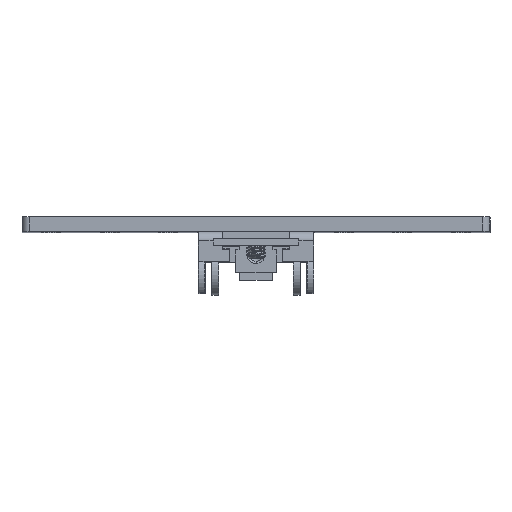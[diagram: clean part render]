
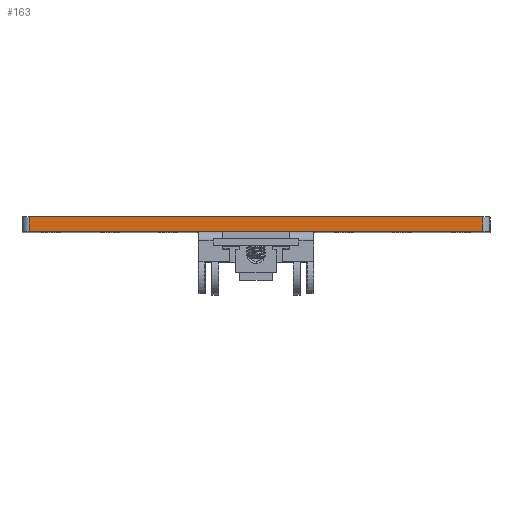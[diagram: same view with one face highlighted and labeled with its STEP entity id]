
A CAD part, top view. The second image highlights one B-rep face of the part: STEP entity #163.
In plain terms, the highlighted planar face has unit normal (0, 0, 1).
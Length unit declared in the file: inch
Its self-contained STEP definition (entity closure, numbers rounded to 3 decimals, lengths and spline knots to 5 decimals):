
#163 = ADVANCED_FACE ( 'NONE', ( #19945 ), #10644, .F. ) ;
#520 = CARTESIAN_POINT ( 'NONE',  ( 3.9375, 0.125, 0. ) ) ;
#4330 = CARTESIAN_POINT ( 'NONE',  ( 0., 0., 0. ) ) ;
#9998 = EDGE_CURVE ( 'NONE', #48848, #66652, #52858, .T. ) ;
#10634 = VECTOR ( 'NONE', #17480, 39.37008 ) ;
#10644 = PLANE ( 'NONE',  #17659 ) ;
#17480 = DIRECTION ( 'NONE',  ( 1., 0., 0. ) ) ;
#17520 = DIRECTION ( 'NONE',  ( 0., -1., 0. ) ) ;
#17659 = AXIS2_PLACEMENT_3D ( 'NONE', #64734, #32638, #54104 ) ;
#18118 = VECTOR ( 'NONE', #31086, 39.37008 ) ;
#19517 = EDGE_CURVE ( 'NONE', #66164, #24489, #54439, .T. ) ;
#19680 = ORIENTED_EDGE ( 'NONE', *, *, #52740, .T. ) ;
#19945 = FACE_OUTER_BOUND ( 'NONE', #51498, .T. ) ;
#20977 = CARTESIAN_POINT ( 'NONE',  ( 3.9375, 0., 0. ) ) ;
#24477 = LINE ( 'NONE', #60325, #34616 ) ;
#24489 = VERTEX_POINT ( 'NONE', #20977 ) ;
#28404 = CARTESIAN_POINT ( 'NONE',  ( 0.0625, 0., 0. ) ) ;
#29492 = EDGE_CURVE ( 'NONE', #24489, #66652, #38753, .T. ) ;
#29630 = ORIENTED_EDGE ( 'NONE', *, *, #29492, .T. ) ;
#31086 = DIRECTION ( 'NONE',  ( 1., 0., 0. ) ) ;
#31985 = VECTOR ( 'NONE', #35137, 39.37008 ) ;
#32638 = DIRECTION ( 'NONE',  ( 0., 0., -1. ) ) ;
#34616 = VECTOR ( 'NONE', #17520, 39.37008 ) ;
#35137 = DIRECTION ( 'NONE',  ( 0., 1., 0. ) ) ;
#38753 = LINE ( 'NONE', #57095, #31985 ) ;
#41427 = ORIENTED_EDGE ( 'NONE', *, *, #19517, .T. ) ;
#44373 = CARTESIAN_POINT ( 'NONE',  ( 0., 0.125, 0. ) ) ;
#48848 = VERTEX_POINT ( 'NONE', #68770 ) ;
#51498 = EDGE_LOOP ( 'NONE', ( #61240, #19680, #41427, #29630 ) ) ;
#52740 = EDGE_CURVE ( 'NONE', #48848, #66164, #24477, .T. ) ;
#52858 = LINE ( 'NONE', #44373, #10634 ) ;
#54104 = DIRECTION ( 'NONE',  ( -1., 0., 0. ) ) ;
#54439 = LINE ( 'NONE', #4330, #18118 ) ;
#57095 = CARTESIAN_POINT ( 'NONE',  ( 3.9375, 0.125, 0. ) ) ;
#60325 = CARTESIAN_POINT ( 'NONE',  ( 0.0625, 0.125, 0. ) ) ;
#61240 = ORIENTED_EDGE ( 'NONE', *, *, #9998, .F. ) ;
#64734 = CARTESIAN_POINT ( 'NONE',  ( 0., 0.125, 0. ) ) ;
#66164 = VERTEX_POINT ( 'NONE', #28404 ) ;
#66652 = VERTEX_POINT ( 'NONE', #520 ) ;
#68770 = CARTESIAN_POINT ( 'NONE',  ( 0.0625, 0.125, 0. ) ) ;
